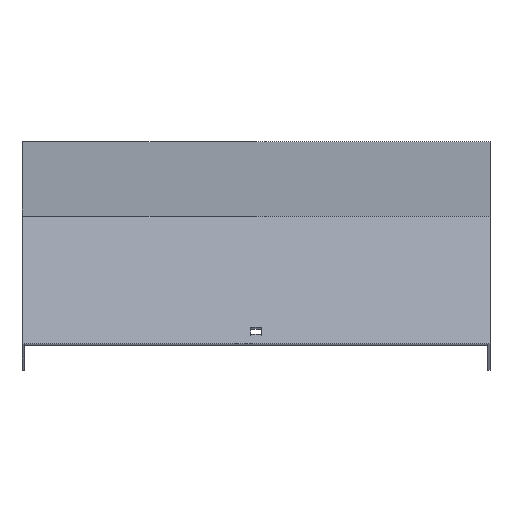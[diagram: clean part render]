
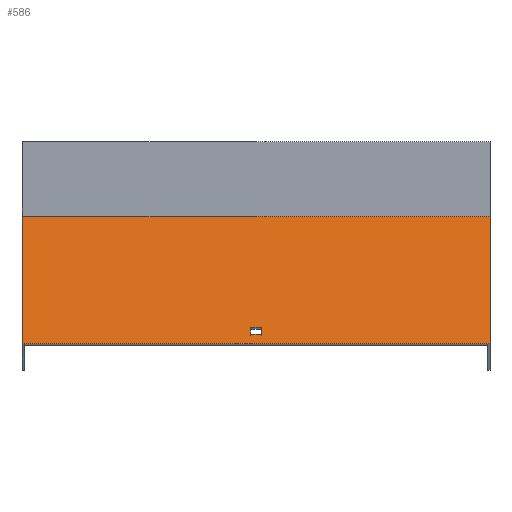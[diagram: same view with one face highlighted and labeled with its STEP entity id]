
A CAD part, top view. The second image highlights one B-rep face of the part: STEP entity #586.
In plain terms, the highlighted planar face has unit normal (0, 0.866, 0.5).
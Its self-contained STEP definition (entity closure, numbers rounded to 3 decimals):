
#2 = CARTESIAN_POINT ( 'NONE',  ( 151.5, -28.468, 346.518 ) ) ;
#12 = CARTESIAN_POINT ( 'NONE',  ( 151.5, -100.785, 471.774 ) ) ;
#16 = DIRECTION ( 'NONE',  ( 1., 0., 0. ) ) ;
#28 = CARTESIAN_POINT ( 'NONE',  ( -151.5, -28.468, 346.518 ) ) ;
#53 = LINE ( 'NONE', #263, #501 ) ;
#92 = EDGE_CURVE ( 'NONE', #477, #692, #818, .T. ) ;
#94 = ORIENTED_EDGE ( 'NONE', *, *, #549, .F. ) ;
#103 = DIRECTION ( 'NONE',  ( -1., 0., 0. ) ) ;
#104 = VECTOR ( 'NONE', #816, 1000. ) ;
#107 = FACE_OUTER_BOUND ( 'NONE', #205, .T. ) ;
#123 = CARTESIAN_POINT ( 'NONE',  ( 151.5, -111.285, 489.961 ) ) ;
#124 = DIRECTION ( 'NONE',  ( -1., 0., 0. ) ) ;
#129 = VECTOR ( 'NONE', #103, 1000. ) ;
#137 = LINE ( 'NONE', #585, #787 ) ;
#158 = CARTESIAN_POINT ( 'NONE',  ( 151.5, -29.785, 348.799 ) ) ;
#205 = EDGE_LOOP ( 'NONE', ( #717, #792, #94, #633 ) ) ;
#218 = ORIENTED_EDGE ( 'NONE', *, *, #443, .T. ) ;
#230 = DIRECTION ( 'NONE',  ( 0., -0.866, -0.5 ) ) ;
#238 = DIRECTION ( 'NONE',  ( 0., 0.5, -0.866 ) ) ;
#241 = LINE ( 'NONE', #553, #104 ) ;
#250 = LINE ( 'NONE', #827, #129 ) ;
#254 = VECTOR ( 'NONE', #16, 1000. ) ;
#263 = CARTESIAN_POINT ( 'NONE',  ( 151.5, -29.785, 348.799 ) ) ;
#266 = DIRECTION ( 'NONE',  ( -1., 0., 0. ) ) ;
#276 = ORIENTED_EDGE ( 'NONE', *, *, #730, .T. ) ;
#309 = VECTOR ( 'NONE', #266, 1000. ) ;
#327 = CARTESIAN_POINT ( 'NONE',  ( 3.25, -29.785, 348.799 ) ) ;
#343 = EDGE_CURVE ( 'NONE', #398, #557, #241, .T. ) ;
#360 = LINE ( 'NONE', #12, #254 ) ;
#377 = PLANE ( 'NONE',  #439 ) ;
#393 = LINE ( 'NONE', #327, #645 ) ;
#398 = VERTEX_POINT ( 'NONE', #28 ) ;
#425 = CARTESIAN_POINT ( 'NONE',  ( 3.25, -100.785, 471.774 ) ) ;
#439 = AXIS2_PLACEMENT_3D ( 'NONE', #158, #230, #238 ) ;
#443 = EDGE_CURVE ( 'NONE', #527, #465, #360, .T. ) ;
#452 = CARTESIAN_POINT ( 'NONE',  ( 151.5, -111.285, 489.961 ) ) ;
#465 = VERTEX_POINT ( 'NONE', #425 ) ;
#477 = VERTEX_POINT ( 'NONE', #578 ) ;
#501 = VECTOR ( 'NONE', #511, 1000. ) ;
#510 = ORIENTED_EDGE ( 'NONE', *, *, #92, .T. ) ;
#511 = DIRECTION ( 'NONE',  ( 0., -0.5, 0.866 ) ) ;
#518 = VECTOR ( 'NONE', #124, 1000. ) ;
#522 = VERTEX_POINT ( 'NONE', #452 ) ;
#527 = VERTEX_POINT ( 'NONE', #754 ) ;
#549 = EDGE_CURVE ( 'NONE', #771, #522, #53, .T. ) ;
#553 = CARTESIAN_POINT ( 'NONE',  ( -151.5, -29.785, 348.799 ) ) ;
#557 = VERTEX_POINT ( 'NONE', #702 ) ;
#558 = EDGE_LOOP ( 'NONE', ( #218, #276, #510, #836 ) ) ;
#561 = CARTESIAN_POINT ( 'NONE',  ( -3.25, -105.285, 479.568 ) ) ;
#572 = DIRECTION ( 'NONE',  ( 0., -0.5, 0.866 ) ) ;
#578 = CARTESIAN_POINT ( 'NONE',  ( 3.25, -105.285, 479.568 ) ) ;
#585 = CARTESIAN_POINT ( 'NONE',  ( -3.25, -29.785, 348.799 ) ) ;
#586 = ADVANCED_FACE ( 'NONE', ( #683, #107 ), #377, .F. ) ;
#633 = ORIENTED_EDGE ( 'NONE', *, *, #854, .T. ) ;
#645 = VECTOR ( 'NONE', #572, 1000. ) ;
#683 = FACE_BOUND ( 'NONE', #558, .T. ) ;
#692 = VERTEX_POINT ( 'NONE', #561 ) ;
#700 = LINE ( 'NONE', #123, #309 ) ;
#702 = CARTESIAN_POINT ( 'NONE',  ( -151.5, -111.285, 489.961 ) ) ;
#717 = ORIENTED_EDGE ( 'NONE', *, *, #343, .T. ) ;
#730 = EDGE_CURVE ( 'NONE', #465, #477, #393, .T. ) ;
#735 = EDGE_CURVE ( 'NONE', #522, #557, #700, .T. ) ;
#754 = CARTESIAN_POINT ( 'NONE',  ( -3.25, -100.785, 471.774 ) ) ;
#769 = CARTESIAN_POINT ( 'NONE',  ( 151.5, -105.285, 479.568 ) ) ;
#771 = VERTEX_POINT ( 'NONE', #2 ) ;
#784 = DIRECTION ( 'NONE',  ( 0., 0.5, -0.866 ) ) ;
#787 = VECTOR ( 'NONE', #784, 1000. ) ;
#792 = ORIENTED_EDGE ( 'NONE', *, *, #735, .F. ) ;
#797 = EDGE_CURVE ( 'NONE', #692, #527, #137, .T. ) ;
#816 = DIRECTION ( 'NONE',  ( 0., -0.5, 0.866 ) ) ;
#818 = LINE ( 'NONE', #769, #518 ) ;
#827 = CARTESIAN_POINT ( 'NONE',  ( 151.5, -28.468, 346.518 ) ) ;
#836 = ORIENTED_EDGE ( 'NONE', *, *, #797, .T. ) ;
#854 = EDGE_CURVE ( 'NONE', #771, #398, #250, .T. ) ;
